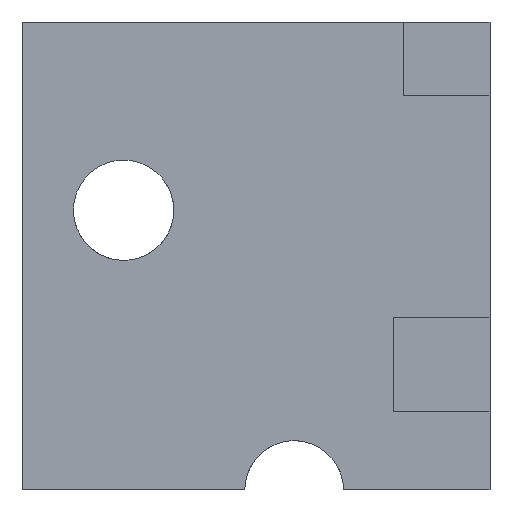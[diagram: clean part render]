
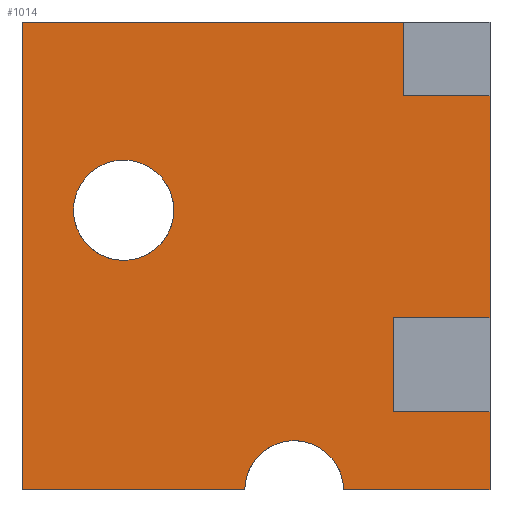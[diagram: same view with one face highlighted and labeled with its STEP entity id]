
A CAD part, left-side view. The second image highlights one B-rep face of the part: STEP entity #1014.
In plain terms, the highlighted planar face has unit normal (-1, 0, 0).
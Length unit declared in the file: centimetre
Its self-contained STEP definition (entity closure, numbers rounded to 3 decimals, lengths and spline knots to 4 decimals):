
#12 = EDGE_CURVE ( 'NONE', #397, #1792, #753, .T. ) ;
#20 = CARTESIAN_POINT ( 'NONE',  ( 0., 185.4622, 842.6103 ) ) ;
#31 = CARTESIAN_POINT ( 'NONE',  ( 0., 1000., 1000. ) ) ;
#46 = LINE ( 'NONE', #975, #692 ) ;
#98 = EDGE_CURVE ( 'NONE', #1749, #126, #1210, .T. ) ;
#110 = DIRECTION ( 'NONE',  ( 0., -1., 0. ) ) ;
#126 = VERTEX_POINT ( 'NONE', #304 ) ;
#184 = ORIENTED_EDGE ( 'NONE', *, *, #1985, .T. ) ;
#224 = CARTESIAN_POINT ( 'NONE',  ( 0., 524.0078, 0. ) ) ;
#236 = DIRECTION ( 'NONE',  ( 0., 0., -1. ) ) ;
#304 = CARTESIAN_POINT ( 'NONE',  ( 0., 782.8386, 704.9924 ) ) ;
#332 = ORIENTED_EDGE ( 'NONE', *, *, #2004, .T. ) ;
#339 = AXIS2_PLACEMENT_3D ( 'NONE', #1087, #2451, #2048 ) ;
#356 = DIRECTION ( 'NONE',  ( 1., 0., 0. ) ) ;
#363 = LINE ( 'NONE', #1075, #1905 ) ;
#397 = VERTEX_POINT ( 'NONE', #700 ) ;
#430 = VECTOR ( 'NONE', #1299, 100. ) ;
#431 = LINE ( 'NONE', #1177, #1310 ) ;
#447 = DIRECTION ( 'NONE',  ( 0., 1., 0. ) ) ;
#487 = CARTESIAN_POINT ( 'NONE',  ( 0., 782.8386, 597.7188 ) ) ;
#495 = EDGE_CURVE ( 'NONE', #1029, #579, #363, .T. ) ;
#511 = CARTESIAN_POINT ( 'NONE',  ( 0., 185.4622, 842.6103 ) ) ;
#578 = LINE ( 'NONE', #923, #1228 ) ;
#579 = VERTEX_POINT ( 'NONE', #2061 ) ;
#661 = EDGE_CURVE ( 'NONE', #1459, #579, #1537, .T. ) ;
#667 = ORIENTED_EDGE ( 'NONE', *, *, #1160, .F. ) ;
#680 = EDGE_CURVE ( 'NONE', #1184, #2217, #1342, .T. ) ;
#692 = VECTOR ( 'NONE', #447, 100. ) ;
#696 = CARTESIAN_POINT ( 'NONE',  ( 0., 0., 166.9315 ) ) ;
#700 = CARTESIAN_POINT ( 'NONE',  ( 0., 205.5657, 166.9315 ) ) ;
#713 = CARTESIAN_POINT ( 'NONE',  ( 0., 0., 367.8965 ) ) ;
#753 = LINE ( 'NONE', #1901, #430 ) ;
#774 = VERTEX_POINT ( 'NONE', #1986 ) ;
#799 = VERTEX_POINT ( 'NONE', #713 ) ;
#804 = VECTOR ( 'NONE', #1859, 100. ) ;
#813 = VECTOR ( 'NONE', #2290, 100. ) ;
#847 = CARTESIAN_POINT ( 'NONE',  ( 0., 782.8386, 597.7188 ) ) ;
#872 = CARTESIAN_POINT ( 'NONE',  ( 0., 1000., 0. ) ) ;
#873 = LINE ( 'NONE', #1430, #1047 ) ;
#881 = DIRECTION ( 'NONE',  ( 0., 0., -1. ) ) ;
#895 = CARTESIAN_POINT ( 'NONE',  ( 0., 0., 842.6103 ) ) ;
#899 = ORIENTED_EDGE ( 'NONE', *, *, #12, .F. ) ;
#901 = ORIENTED_EDGE ( 'NONE', *, *, #2328, .T. ) ;
#904 = ORIENTED_EDGE ( 'NONE', *, *, #2232, .F. ) ;
#916 = CIRCLE ( 'NONE', #1268, 105.556 ) ;
#923 = CARTESIAN_POINT ( 'NONE',  ( 0., 1000., 1000. ) ) ;
#933 = FACE_OUTER_BOUND ( 'NONE', #1005, .T. ) ;
#937 = ORIENTED_EDGE ( 'NONE', *, *, #680, .T. ) ;
#975 = CARTESIAN_POINT ( 'NONE',  ( 0., 0., 367.8965 ) ) ;
#1005 = EDGE_LOOP ( 'NONE', ( #2365, #1514, #1473, #184, #937, #332, #901, #1271, #899, #904, #667, #1888 ) ) ;
#1014 = ADVANCED_FACE ( 'NONE', ( #1120, #933 ), #1693, .F. ) ;
#1029 = VERTEX_POINT ( 'NONE', #31 ) ;
#1039 = DIRECTION ( 'NONE',  ( -1., 0., 0. ) ) ;
#1047 = VECTOR ( 'NONE', #2345, 100. ) ;
#1052 = AXIS2_PLACEMENT_3D ( 'NONE', #487, #1608, #1966 ) ;
#1075 = CARTESIAN_POINT ( 'NONE',  ( 0., 1000., 1000. ) ) ;
#1077 = CARTESIAN_POINT ( 'NONE',  ( 0., 1000., 0. ) ) ;
#1087 = CARTESIAN_POINT ( 'NONE',  ( 0., 1000., 1000. ) ) ;
#1104 = CARTESIAN_POINT ( 'NONE',  ( 0., 205.5657, 367.8965 ) ) ;
#1120 = FACE_BOUND ( 'NONE', #2228, .T. ) ;
#1135 = VECTOR ( 'NONE', #2113, 100. ) ;
#1140 = LINE ( 'NONE', #1360, #1417 ) ;
#1160 = EDGE_CURVE ( 'NONE', #799, #1529, #46, .T. ) ;
#1177 = CARTESIAN_POINT ( 'NONE',  ( 0., 205.5657, 166.9315 ) ) ;
#1184 = VERTEX_POINT ( 'NONE', #872 ) ;
#1210 = CIRCLE ( 'NONE', #2456, 107.2736 ) ;
#1228 = VECTOR ( 'NONE', #881, 100. ) ;
#1247 = CARTESIAN_POINT ( 'NONE',  ( 0., 782.8386, 490.4452 ) ) ;
#1268 = AXIS2_PLACEMENT_3D ( 'NONE', #1639, #356, #1521 ) ;
#1271 = ORIENTED_EDGE ( 'NONE', *, *, #2360, .F. ) ;
#1299 = DIRECTION ( 'NONE',  ( 0., -1., 0. ) ) ;
#1309 = EDGE_CURVE ( 'NONE', #126, #1749, #2112, .T. ) ;
#1310 = VECTOR ( 'NONE', #236, 100. ) ;
#1342 = LINE ( 'NONE', #1923, #1135 ) ;
#1360 = CARTESIAN_POINT ( 'NONE',  ( 0., 0., 1000. ) ) ;
#1403 = EDGE_CURVE ( 'NONE', #1459, #1500, #2035, .T. ) ;
#1417 = VECTOR ( 'NONE', #2121, 100. ) ;
#1430 = CARTESIAN_POINT ( 'NONE',  ( 0., 0., 1000. ) ) ;
#1459 = VERTEX_POINT ( 'NONE', #511 ) ;
#1471 = VERTEX_POINT ( 'NONE', #2237 ) ;
#1473 = ORIENTED_EDGE ( 'NONE', *, *, #495, .F. ) ;
#1500 = VERTEX_POINT ( 'NONE', #1505 ) ;
#1505 = CARTESIAN_POINT ( 'NONE',  ( 0., 0., 842.6103 ) ) ;
#1514 = ORIENTED_EDGE ( 'NONE', *, *, #661, .T. ) ;
#1521 = DIRECTION ( 'NONE',  ( 0., 0., -1. ) ) ;
#1529 = VERTEX_POINT ( 'NONE', #1104 ) ;
#1537 = LINE ( 'NONE', #20, #813 ) ;
#1608 = DIRECTION ( 'NONE',  ( -1., 0., 0. ) ) ;
#1623 = ORIENTED_EDGE ( 'NONE', *, *, #1309, .F. ) ;
#1626 = EDGE_CURVE ( 'NONE', #1500, #799, #1140, .T. ) ;
#1639 = CARTESIAN_POINT ( 'NONE',  ( 0., 418.4518, 0. ) ) ;
#1653 = DIRECTION ( 'NONE',  ( 0., -1., 0. ) ) ;
#1693 = PLANE ( 'NONE',  #339 ) ;
#1701 = ORIENTED_EDGE ( 'NONE', *, *, #98, .F. ) ;
#1749 = VERTEX_POINT ( 'NONE', #1247 ) ;
#1792 = VERTEX_POINT ( 'NONE', #696 ) ;
#1859 = DIRECTION ( 'NONE',  ( 0., -1., 0. ) ) ;
#1888 = ORIENTED_EDGE ( 'NONE', *, *, #1626, .F. ) ;
#1901 = CARTESIAN_POINT ( 'NONE',  ( 0., 0., 166.9315 ) ) ;
#1905 = VECTOR ( 'NONE', #1653, 100. ) ;
#1923 = CARTESIAN_POINT ( 'NONE',  ( 0., 1000., 0. ) ) ;
#1966 = DIRECTION ( 'NONE',  ( 0., 0., 1. ) ) ;
#1985 = EDGE_CURVE ( 'NONE', #1029, #1184, #578, .T. ) ;
#1986 = CARTESIAN_POINT ( 'NONE',  ( 0., 0., 0. ) ) ;
#2004 = EDGE_CURVE ( 'NONE', #2217, #1471, #916, .T. ) ;
#2035 = LINE ( 'NONE', #895, #804 ) ;
#2048 = DIRECTION ( 'NONE',  ( 0., 0., -1. ) ) ;
#2061 = CARTESIAN_POINT ( 'NONE',  ( 0., 185.4622, 1000. ) ) ;
#2112 = CIRCLE ( 'NONE', #1052, 107.2736 ) ;
#2113 = DIRECTION ( 'NONE',  ( 0., -1., 0. ) ) ;
#2121 = DIRECTION ( 'NONE',  ( 0., 0., -1. ) ) ;
#2217 = VERTEX_POINT ( 'NONE', #224 ) ;
#2228 = EDGE_LOOP ( 'NONE', ( #1623, #1701 ) ) ;
#2232 = EDGE_CURVE ( 'NONE', #1529, #397, #431, .T. ) ;
#2237 = CARTESIAN_POINT ( 'NONE',  ( 0., 312.8959, 0. ) ) ;
#2290 = DIRECTION ( 'NONE',  ( 0., 0., 1. ) ) ;
#2328 = EDGE_CURVE ( 'NONE', #1471, #774, #2387, .T. ) ;
#2335 = DIRECTION ( 'NONE',  ( 0., 0., 1. ) ) ;
#2345 = DIRECTION ( 'NONE',  ( 0., 0., -1. ) ) ;
#2360 = EDGE_CURVE ( 'NONE', #1792, #774, #873, .T. ) ;
#2365 = ORIENTED_EDGE ( 'NONE', *, *, #1403, .F. ) ;
#2387 = LINE ( 'NONE', #1077, #2393 ) ;
#2393 = VECTOR ( 'NONE', #110, 100. ) ;
#2451 = DIRECTION ( 'NONE',  ( 1., 0., 0. ) ) ;
#2456 = AXIS2_PLACEMENT_3D ( 'NONE', #847, #1039, #2335 ) ;
